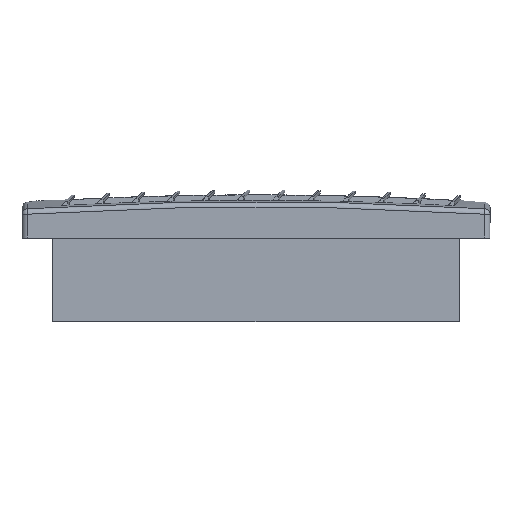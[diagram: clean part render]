
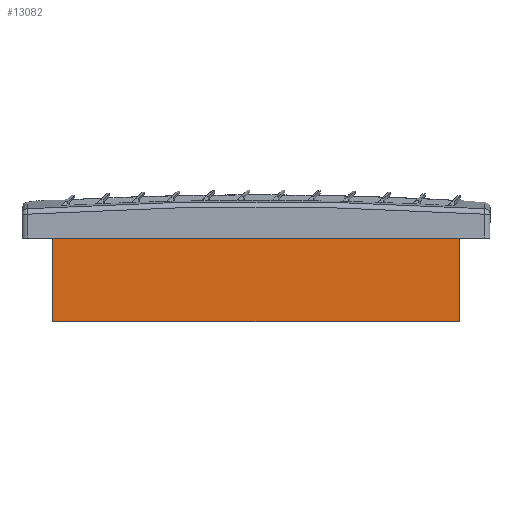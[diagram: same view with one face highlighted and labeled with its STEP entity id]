
A CAD part, left-side view. The second image highlights one B-rep face of the part: STEP entity #13082.
In plain terms, the highlighted planar face has unit normal (-1, 0, 0).
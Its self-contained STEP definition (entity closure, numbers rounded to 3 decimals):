
#225 = VERTEX_POINT ( 'NONE', #11806 ) ;
#531 = AXIS2_PLACEMENT_3D ( 'NONE', #8004, #1000, #9196 ) ;
#651 = FACE_OUTER_BOUND ( 'NONE', #962, .T. ) ;
#768 = ORIENTED_EDGE ( 'NONE', *, *, #7750, .F. ) ;
#931 = VECTOR ( 'NONE', #2809, 1000. ) ;
#962 = EDGE_LOOP ( 'NONE', ( #13096, #9989, #768, #9906 ) ) ;
#1000 = DIRECTION ( 'NONE',  ( 1., 0., 0. ) ) ;
#1334 = VERTEX_POINT ( 'NONE', #7495 ) ;
#2656 = VERTEX_POINT ( 'NONE', #7419 ) ;
#2809 = DIRECTION ( 'NONE',  ( 0., 1., 0. ) ) ;
#3303 = PLANE ( 'NONE',  #531 ) ;
#3935 = VECTOR ( 'NONE', #5496, 1000. ) ;
#4022 = LINE ( 'NONE', #12138, #931 ) ;
#5496 = DIRECTION ( 'NONE',  ( 0., 0., 1. ) ) ;
#6296 = DIRECTION ( 'NONE',  ( 0., 0., 1. ) ) ;
#6883 = LINE ( 'NONE', #10971, #8548 ) ;
#7042 = LINE ( 'NONE', #13612, #3935 ) ;
#7419 = CARTESIAN_POINT ( 'NONE',  ( 0., 0., 0. ) ) ;
#7495 = CARTESIAN_POINT ( 'NONE',  ( 0., -223., 0. ) ) ;
#7750 = EDGE_CURVE ( 'NONE', #225, #9156, #4022, .T. ) ;
#8004 = CARTESIAN_POINT ( 'NONE',  ( 0., 0., -46. ) ) ;
#8400 = LINE ( 'NONE', #9294, #11509 ) ;
#8548 = VECTOR ( 'NONE', #6296, 1000. ) ;
#9156 = VERTEX_POINT ( 'NONE', #9947 ) ;
#9196 = DIRECTION ( 'NONE',  ( 0., -1., 0. ) ) ;
#9241 = DIRECTION ( 'NONE',  ( 0., 1., 0. ) ) ;
#9294 = CARTESIAN_POINT ( 'NONE',  ( 0., 0., 0. ) ) ;
#9906 = ORIENTED_EDGE ( 'NONE', *, *, #12332, .T. ) ;
#9947 = CARTESIAN_POINT ( 'NONE',  ( 0., 0., -46. ) ) ;
#9989 = ORIENTED_EDGE ( 'NONE', *, *, #14083, .F. ) ;
#10971 = CARTESIAN_POINT ( 'NONE',  ( 0., -223., -46. ) ) ;
#11509 = VECTOR ( 'NONE', #9241, 1000. ) ;
#11662 = EDGE_CURVE ( 'NONE', #1334, #2656, #8400, .T. ) ;
#11806 = CARTESIAN_POINT ( 'NONE',  ( 0., -223., -46. ) ) ;
#12138 = CARTESIAN_POINT ( 'NONE',  ( 0., 0., -46. ) ) ;
#12332 = EDGE_CURVE ( 'NONE', #225, #1334, #6883, .T. ) ;
#13082 = ADVANCED_FACE ( 'NONE', ( #651 ), #3303, .F. ) ;
#13096 = ORIENTED_EDGE ( 'NONE', *, *, #11662, .T. ) ;
#13612 = CARTESIAN_POINT ( 'NONE',  ( 0., 0., -46. ) ) ;
#14083 = EDGE_CURVE ( 'NONE', #9156, #2656, #7042, .T. ) ;
